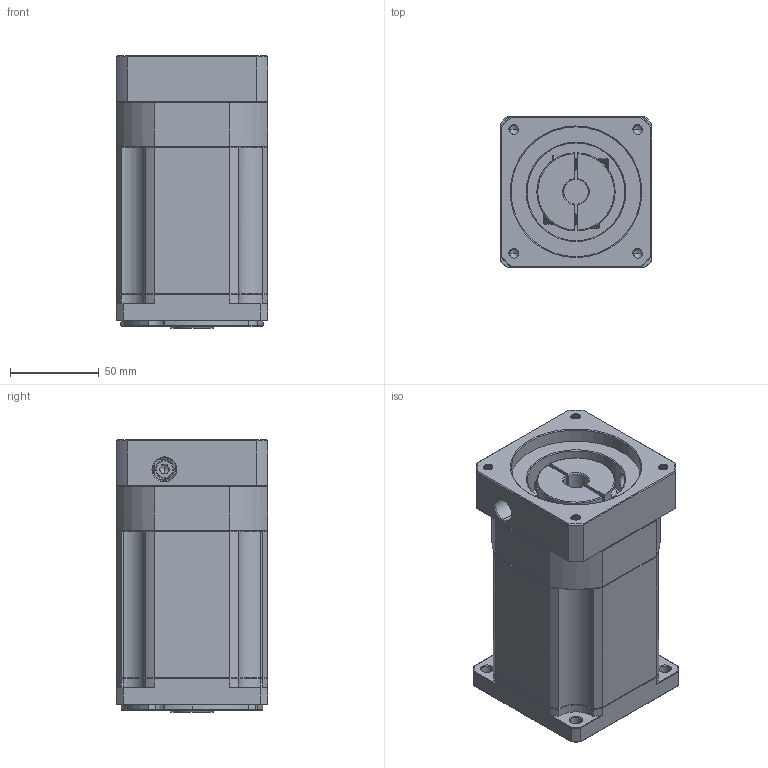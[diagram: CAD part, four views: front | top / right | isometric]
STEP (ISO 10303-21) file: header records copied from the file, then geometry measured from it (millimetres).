
FILE_DESCRIPTION (( 'STEP AP214' ), '1' );
FILE_NAME ('ZB090-K15-L3-P2-14-73-69.6X69.6-M6.step', '2023-08-18T12:19:16', ( '' ), ( '' ), 'SwSTEP 2.0', 'SolidWorks 2016', '' );
FILE_SCHEMA (( 'AUTOMOTIVE_DESIGN' ));
Length unit declared in the file: millimetre
Products named in the file (1): ZB090-K15-L3-P2-14-73-69.6X69.6-M6
Bounding box: 85 x 85 x 153 mm (x, y, z)
Volume: 894291.7 mm3; surface area: 99562.5 mm2
Topology: 4 solids, 5 shells, 2160 faces, 5737 edges, 3661 vertices
Faces by surface type: plane 1059, bspline 390, cylinder 358, cone 328, torus 25
Entity records: 114919 total; most frequent: CARTESIAN_POINT 40657, ORIENTED_EDGE 11434, DIRECTION 8984, EDGE_CURVE 5717, VECTOR 3668, LINE 3668, VERTEX_POINT 3661, AXIS2_PLACEMENT_3D 2658
